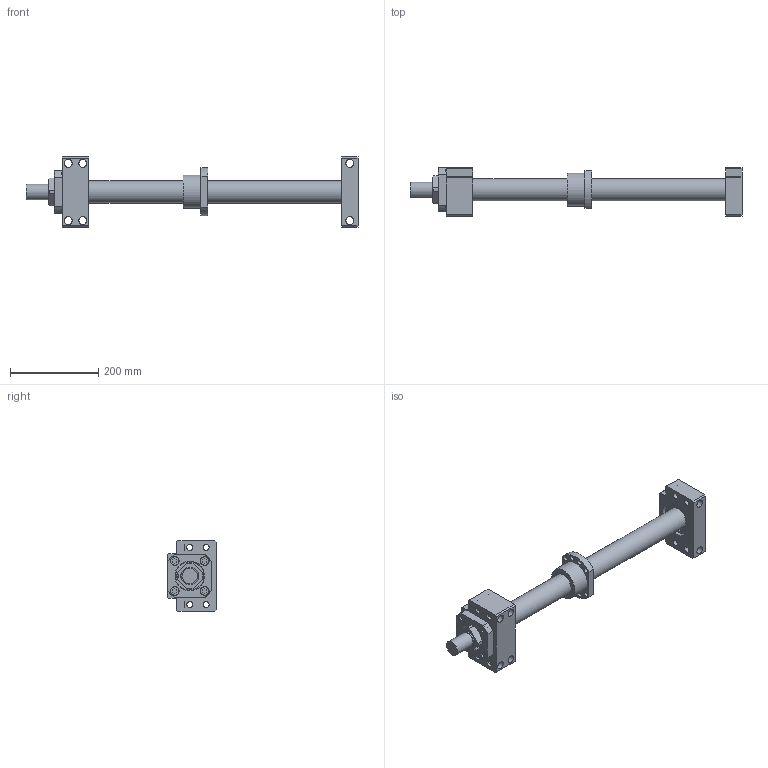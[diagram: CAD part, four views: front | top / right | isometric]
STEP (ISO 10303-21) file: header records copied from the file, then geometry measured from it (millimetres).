
FILE_DESCRIPTION(/* description */ ('','CAx-IF Rec.Pracs.---Representation and Presentation of Product Manufacturing Information (PMI)---4.0---2014-10-13'),/* implementation_level */ '2;1');
FILE_NAME(/* name */ 'F2RFU-5005-0750-BF40-BK40ASM v1.step',/* time_stamp */ '2024-12-17T10:43:55-05:00',/* author */ (''),/* organization */ (''),/* preprocessor_version */ 'ST-DEVELOPER v20',/* originating_system */ 'Autodesk Translation Framework v13.20.0.188',/* authorisation */ '');
FILE_SCHEMA (('AP242_MANAGED_MODEL_BASED_3D_ENGINEERING_MIM_LF { 1 0 10303 442 1 1 4 }'));
Length unit declared in the file: millimetre
Products named in the file (12): F2RFU-5005-0750-BF40-BK40ASM; 50xx_750; Screw50; BF40EndMach; BK40EndMach; BK40Yes; BK 40; BK 40collar; BF40; BF 40 Part1; BF 40 Part2; 50 x 5 Ball Nut
Assembly tree (11 placements, depth 3):
  F2RFU-5005-0750-BF40-BK40ASM
    50xx_750
      Screw50
      BF40EndMach
      BK40EndMach
    BK40Yes
      BK 40
      BK 40collar
    BF40
      BF 40 Part1
      BF 40 Part2
    50 x 5 Ball Nut
Bounding box: 754.5 x 110 x 160 mm (x, y, z)
Volume: 2878961.3 mm3; surface area: 384336.9 mm2
Topology: 8 solids, 9 shells, 245 faces, 639 edges, 433 vertices
Faces by surface type: plane 133, cylinder 88, cone 19, torus 5
Full cylindrical faces by diameter (mm): 6.8 x1, 8 x2, 11 x8, 14 x20, 18 x6, 19 x4, 20 x4, 26 x6, 35 x1, 38 x1, 38.376 x1, 39.85 x1, 40 x5, 46 x1, 48 x1, 49.4 x2, 50 x1, 50.2 x1, 52.8 x2, 61.7 x2, 65 x2, 65.1 x1, 67.2 x2, 75 x1, 80 x2
Entity records: 9069 total; most frequent: CARTESIAN_POINT 2555, ORIENTED_EDGE 1278, DIRECTION 1265, EDGE_CURVE 639, AXIS2_PLACEMENT_3D 468, VERTEX_POINT 433, EDGE_LOOP 346, LINE 329
